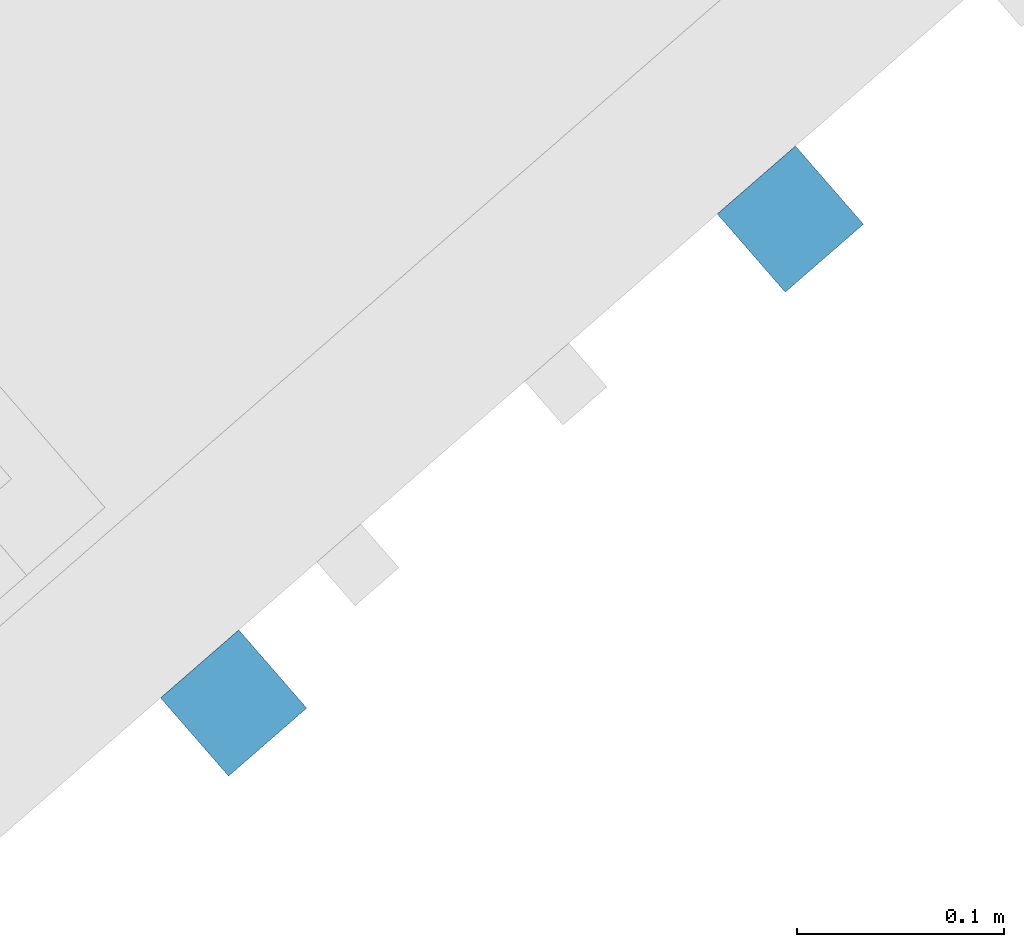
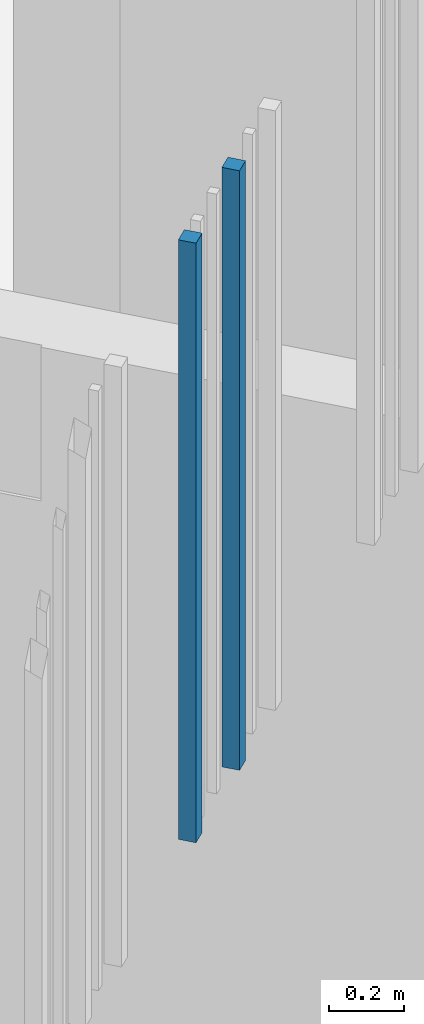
# One storey, part 60 of 124: 2 walls.
"""IFC2X3 building model written with IfcOpenShell, lengths in millimetres."""

from ifc_helpers import new_model, entity, si_unit, converted_unit, derived_unit, money_unit, direction, frame, origin_with_axes, place, context, subcontext, project, spatial, faceted_brep, material, type_object, element, save


model = new_model("IFC2X3")

# Units and contexts
model_context = context("Model", 3, precision=1e-05, world=origin_with_axes(), true_north=direction((0.0, 1.0)))
body_context = subcontext(model_context, "Body", "Model", "MODEL_VIEW")
ifc_project = project(units=[si_unit("LENGTHUNIT", "METRE", prefix="MILLI"), si_unit("AREAUNIT", "SQUARE_METRE"), si_unit("VOLUMEUNIT", "CUBIC_METRE"), converted_unit("PLANEANGLEUNIT", "DEGREE", entity("IfcPlaneAngleMeasure", 0.0174532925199), si_unit("PLANEANGLEUNIT", "RADIAN"), dimensions=[0, 0, 0, 0, 0, 0, 0]), si_unit("SOLIDANGLEUNIT", "STERADIAN"), money_unit("EUR"), converted_unit("TIMEUNIT", "Year", entity("IfcTimeMeasure", 31556926.0), si_unit("TIMEUNIT", "SECOND"), dimensions=[0, 0, 1, 0, 0, 0, 0]), si_unit("MASSUNIT", "GRAM", prefix="KILO"), si_unit("THERMODYNAMICTEMPERATUREUNIT", "DEGREE_CELSIUS"), si_unit("LUMINOUSINTENSITYUNIT", "LUMEN"), si_unit("ENERGYUNIT", "JOULE", prefix="MEGA"), derived_unit("THERMALCONDUCTANCEUNIT", [(si_unit("POWERUNIT", "WATT"), 1), (si_unit("LENGTHUNIT", "METRE"), -1), (si_unit("THERMODYNAMICTEMPERATUREUNIT", "KELVIN"), -1)]), derived_unit("SPECIFICHEATCAPACITYUNIT", [(si_unit("ENERGYUNIT", "JOULE"), 1), (si_unit("MASSUNIT", "GRAM", prefix="KILO"), -1), (si_unit("THERMODYNAMICTEMPERATUREUNIT", "KELVIN"), -1)]), derived_unit("MASSDENSITYUNIT", [(si_unit("MASSUNIT", "GRAM", prefix="KILO"), 1), (si_unit("VOLUMEUNIT", "CUBIC_METRE"), -1)])], contexts=[model_context])

# Site, building, storey
site_placement = place(None, origin_with_axes())
site = spatial("IfcSite", under=ifc_project, at=site_placement, Name="Site", CompositionType="ELEMENT")
building_placement = place(site_placement, origin_with_axes())
building = spatial("IfcBuilding", under=site, at=building_placement, Name="Building", CompositionType="ELEMENT")
storey_placement = place(building_placement, frame((0.0, 0.0, -1615.0), z_axis=(0.0, 0.0, 1.0), x_axis=(1.0, 0.0, 0.0)))
storey = spatial("IfcBuildingStorey", under=building, at=storey_placement, Name="0  korrus", CompositionType="ELEMENT", Elevation=-1615.0)

# Walls
ifc_material = material(Name="Site specified")
wall_type = type_object("IfcWallType", Name="Puitfassaadi ribistik", PredefinedType="NOTDEFINED")
for number, where, z_axis, x_axis, name in (
    (1, (154950.779907, 79327.2746415, 9530.0), (0.0, 0.0, 1.0), (-0.754709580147, -0.656059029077, 0.0), "Site specified"),
    (2, (155219.460769, 79560.8353517, 9530.0), (0.0, 0.0, 1.0), (-0.754709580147, -0.656059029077, 0.0), "Site specified"),
):
    element("IfcWall", number, at=place(storey_placement, frame(where, z_axis=z_axis, x_axis=x_axis)), inside=storey, type_object=wall_type, material=ifc_material, Name=name, context=body_context, shape_type="Brep", body=[
        faceted_brep([(25.0, 25.0, 1950.0), (25.0, 25.0, 0.0), (-25.0, 25.0, 0.0), (-25.0, 25.0, 1950.0), (25.0, -25.0, 1950.0), (25.0, -25.0, 0.0), (-25.0, -25.0, 0.0), (-25.0, -25.0, 1950.0)], [[[0, 1, 2, 3]], [[4, 5, 1, 0]], [[2, 1, 5, 6]], [[3, 2, 6, 7]], [[4, 0, 3, 7]], [[7, 6, 5, 4]]]),
    ])

save(model, "model.ifc")
